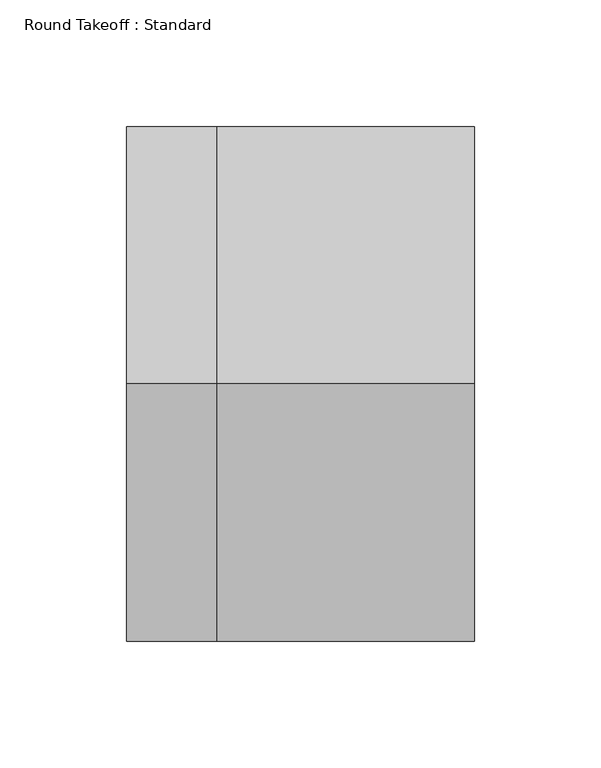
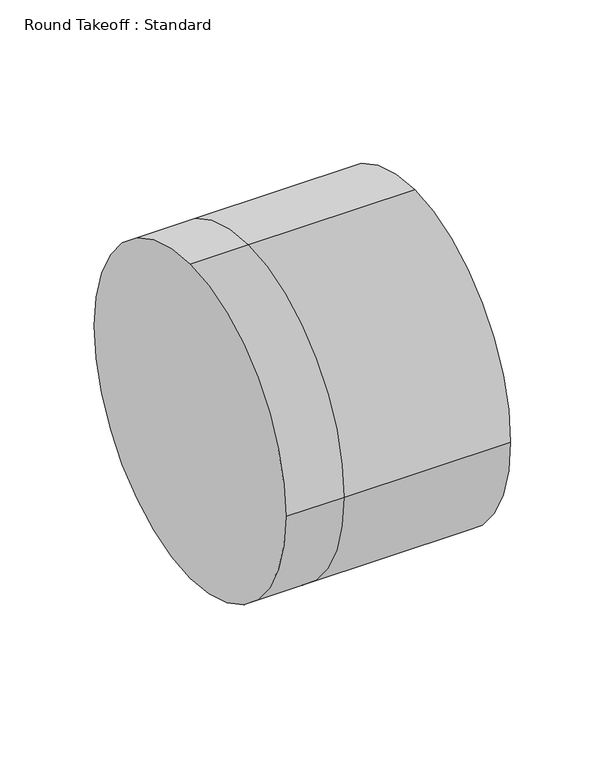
"""IFC4 building model written with IfcOpenShell, lengths in millimetres: duct fitting geometry, Round Takeoff : Standard."""

from ifc_helpers import new_model, si_unit, frame, origin, place, context, project, spatial, circle_curve, source, transform, mapped, element, save
from ifc_brep_helpers import plane_surface, cylinder_surface, advanced_brep


def round_takeoff_standard_9c416d91(model_context):
    return source(origin(), model_context, "Body", "AdvancedBrep", [
        advanced_brep(
        [(101.6, 0.0, 101.6), (101.6, -101.6, 0.0), (101.6, 0.0, -101.6), (101.6, 101.6, 0.0), (0.0, 0.0, 101.6), (0.0, -101.6, 0.0), (0.0, 0.0, -101.6), (0.0, 101.6, 0.0), (-35.8414302, 0.0, 101.6), (-35.8414302, 101.6, 0.0), (-35.8414302, 0.0, -101.6), (-35.8414302, -101.6, 0.0)],
        [
            (0, 1, circle_curve(frame((101.6, 0.0, 0.0), z_axis=(1.0, 0.0, 0.0), x_axis=(0.0, -1.0, 0.0)), 101.6)),
            (1, 2, circle_curve(frame((101.6, 0.0, 0.0), z_axis=(1.0, 0.0, 0.0), x_axis=(0.0, -1.0, 0.0)), 101.6)),
            (2, 3, circle_curve(frame((101.6, 0.0, 0.0), z_axis=(1.0, 0.0, 0.0), x_axis=(0.0, -1.0, 0.0)), 101.6)),
            (3, 0, circle_curve(frame((101.6, 0.0, 0.0), z_axis=(1.0, 0.0, 0.0), x_axis=(0.0, -1.0, 0.0)), 101.6)),
            (0, 4),
            (4, 5, circle_curve(frame((0.0, 0.0, 0.0), z_axis=(1.0, 0.0, 0.0), x_axis=(0.0, -1.0, 0.0)), 101.6)),
            (5, 1),
            (5, 6, circle_curve(frame((0.0, 0.0, 0.0), z_axis=(1.0, 0.0, 0.0), x_axis=(0.0, -1.0, 0.0)), 101.6)),
            (6, 2),
            (6, 7, circle_curve(frame((0.0, 0.0, 0.0), z_axis=(1.0, 0.0, 0.0), x_axis=(0.0, -1.0, 0.0)), 101.6)),
            (7, 3),
            (7, 4, circle_curve(frame((0.0, 0.0, 0.0), z_axis=(1.0, 0.0, 0.0), x_axis=(0.0, -1.0, 0.0)), 101.6)),
            (8, 9, circle_curve(frame((-35.8414302, 0.0, 0.0), z_axis=(-1.0, 0.0, 0.0), x_axis=(0.0, -1.0, 0.0)), 101.6)),
            (9, 10, circle_curve(frame((-35.8414302, 0.0, 0.0), z_axis=(-1.0, 0.0, 0.0), x_axis=(0.0, -1.0, 0.0)), 101.6)),
            (10, 11, circle_curve(frame((-35.8414302, 0.0, 0.0), z_axis=(-1.0, 0.0, 0.0), x_axis=(0.0, -1.0, 0.0)), 101.6)),
            (11, 8, circle_curve(frame((-35.8414302, 0.0, 0.0), z_axis=(-1.0, 0.0, 0.0), x_axis=(0.0, -1.0, 0.0)), 101.6)),
            (11, 5),
            (4, 8),
            (10, 6),
            (9, 7),
        ],
        [
            plane_surface(frame((101.6, 0.0, 0.0), z_axis=(1.0, 0.0, 0.0), x_axis=(0.0, 0.0, 1.0))),
            cylinder_surface(frame((0.0, 0.0, 0.0), z_axis=(-1.0, 0.0, 0.0), x_axis=(0.0, -1.0, 0.0)), 101.6),
            plane_surface(frame((-35.8414302, 0.0, 0.0), z_axis=(-1.0, 0.0, 0.0), x_axis=(0.0, 0.0, 1.0))),
            cylinder_surface(frame((-35.8414302, 0.0, 0.0), z_axis=(-1.0, 0.0, 0.0), x_axis=(0.0, -1.0, 0.0)), 101.6),
        ],
        [
            (0, [[1, 2, 3, 4]]),
            (1, [[5, 6, 7, -1]]),
            (1, [[-7, 8, 9, -2]]),
            (1, [[-9, 10, 11, -3]]),
            (1, [[-11, 12, -5, -4]]),
            (2, [[13, 14, 15, 16]]),
            (3, [[17, -6, 18, -16]]),
            (3, [[19, -8, -17, -15]]),
            (3, [[20, -10, -19, -14]]),
            (3, [[-18, -12, -20, -13]]),
        ],
    ),
    ])


if __name__ == "__main__":
    model = new_model("IFC4")
    model_context = context("Model", 3, world=origin())
    ifc_project = project(units=[si_unit("LENGTHUNIT", "METRE", prefix="MILLI")], contexts=[model_context])
    site = spatial("IfcSite", under=ifc_project)
    building = spatial("IfcBuilding", under=site)
    placement = place(None, origin())
    round_takeoff_standard_shape = round_takeoff_standard_9c416d91(model_context)
    element("IfcDuctFitting", 1, ObjectType="Round Takeoff : Standard", at=placement, inside=building, context=model_context, shape_type="MappedRepresentation", body=[
        mapped(round_takeoff_standard_shape, transform((0.0, 0.0, 0.0), x_axis=(1.0, 0.0, 0.0), y_axis=(0.0, 1.0, 0.0), z_axis=(0.0, 0.0, 1.0))),
    ])
    save(model, "model.ifc")
